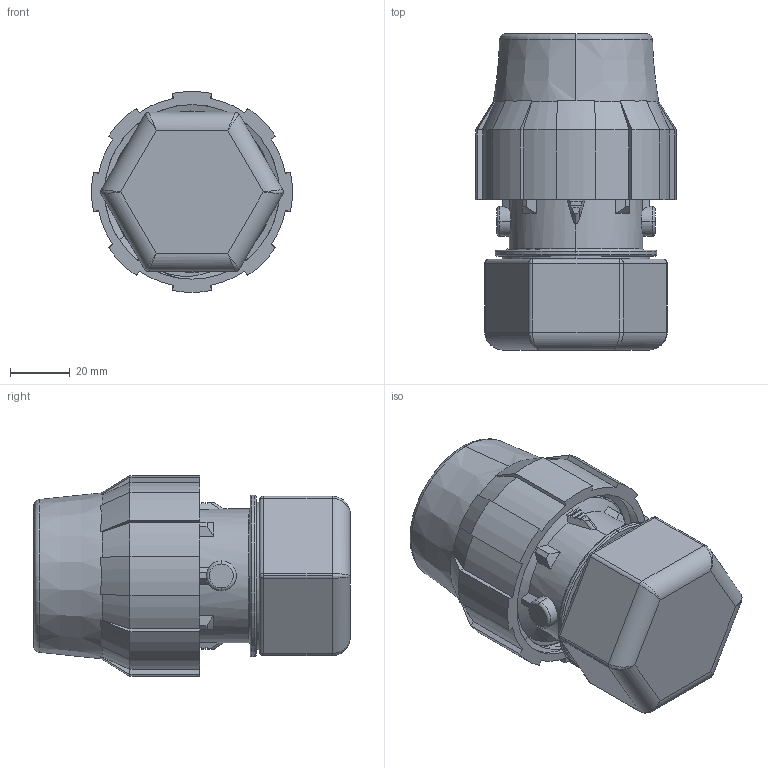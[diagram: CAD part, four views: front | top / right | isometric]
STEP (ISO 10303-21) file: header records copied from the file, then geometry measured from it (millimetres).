
FILE_DESCRIPTION (( 'STEP AP203' ), '1' );
FILE_NAME ('QLCALA040.STEP', '2014-04-14T10:37:07', ( '' ), ( '' ), 'SwSTEP 2.0', 'SolidWorks 2013', '' );
FILE_SCHEMA (( 'CONFIG_CONTROL_DESIGN' ));
Length unit declared in the file: millimetre
Products named in the file (4): CCORMN040128AL ISO7; DADO CALOTTA 040128; CGHQUICK040AL; QLCALA040
Assembly tree (3 placements, depth 2):
  QLCALA040
    CCORMN040128AL ISO7
    DADO CALOTTA 040128
    CGHQUICK040AL
Bounding box: 67.16 x 105.93 x 67.23 mm (x, y, z)
Volume: 101700.3 mm3; surface area: 64294.8 mm2
Topology: 3 solids, 3 shells, 355 faces, 917 edges, 566 vertices
Faces by surface type: cylinder 120, plane 100, bspline 62, cone 42, torus 24, sphere 7
Entity records: 21382 total; most frequent: CARTESIAN_POINT 13280, ORIENTED_EDGE 1814, DIRECTION 1355, EDGE_CURVE 907, VERTEX_POINT 566, AXIS2_PLACEMENT_3D 533, EDGE_LOOP 371, ADVANCED_FACE 355
